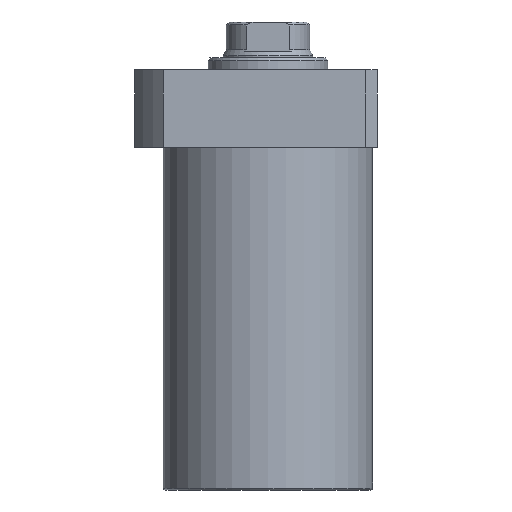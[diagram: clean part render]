
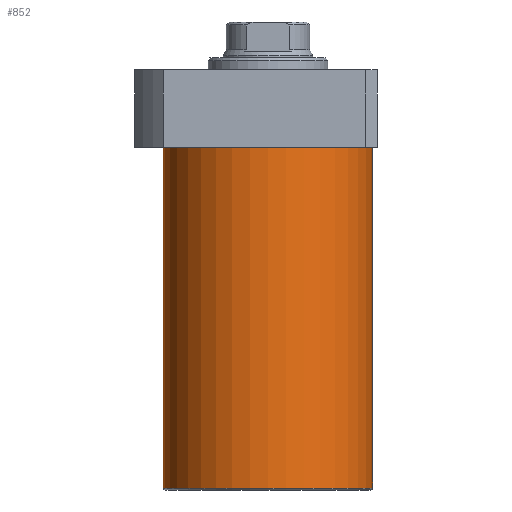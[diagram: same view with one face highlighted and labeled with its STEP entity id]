
A CAD part, front view. The second image highlights one B-rep face of the part: STEP entity #852.
In plain terms, the highlighted cylindrical face has radius 52.5 mm (diameter 105 mm), a partial arc.
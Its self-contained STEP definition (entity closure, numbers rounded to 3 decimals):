
#103 = DIRECTION ( 'NONE',  ( 1., 0., 0. ) ) ;
#120 = DIRECTION ( 'NONE',  ( 0., 0., 1. ) ) ;
#146 = EDGE_LOOP ( 'NONE', ( #1537, #802, #403, #1473 ) ) ;
#225 = AXIS2_PLACEMENT_3D ( 'NONE', #1780, #120, #103 ) ;
#255 = EDGE_CURVE ( 'NONE', #1125, #357, #1659, .T. ) ;
#266 = FACE_OUTER_BOUND ( 'NONE', #146, .T. ) ;
#331 = DIRECTION ( 'NONE',  ( 0., 0., 1. ) ) ;
#356 = DIRECTION ( 'NONE',  ( 0., 0., -1. ) ) ;
#357 = VERTEX_POINT ( 'NONE', #1257 ) ;
#395 = CARTESIAN_POINT ( 'NONE',  ( 52.5, 0., -191.5 ) ) ;
#403 = ORIENTED_EDGE ( 'NONE', *, *, #1097, .T. ) ;
#664 = DIRECTION ( 'NONE',  ( 1., 0., 0. ) ) ;
#770 = AXIS2_PLACEMENT_3D ( 'NONE', #1526, #774, #1685 ) ;
#774 = DIRECTION ( 'NONE',  ( 0., 0., 1. ) ) ;
#802 = ORIENTED_EDGE ( 'NONE', *, *, #255, .T. ) ;
#832 = CARTESIAN_POINT ( 'NONE',  ( -52.5, 0., -19.5 ) ) ;
#852 = ADVANCED_FACE ( 'NONE', ( #266 ), #1011, .T. ) ;
#894 = CIRCLE ( 'NONE', #899, 52.5 ) ;
#899 = AXIS2_PLACEMENT_3D ( 'NONE', #1541, #356, #664 ) ;
#960 = EDGE_CURVE ( 'NONE', #1125, #1146, #1414, .T. ) ;
#997 = CARTESIAN_POINT ( 'NONE',  ( 52.5, 0., -19.5 ) ) ;
#998 = CARTESIAN_POINT ( 'NONE',  ( -52.5, 0., -190.5 ) ) ;
#1011 = CYLINDRICAL_SURFACE ( 'NONE', #225, 52.5 ) ;
#1052 = EDGE_CURVE ( 'NONE', #1436, #1146, #894, .T. ) ;
#1097 = EDGE_CURVE ( 'NONE', #357, #1436, #1924, .T. ) ;
#1125 = VERTEX_POINT ( 'NONE', #998 ) ;
#1146 = VERTEX_POINT ( 'NONE', #832 ) ;
#1257 = CARTESIAN_POINT ( 'NONE',  ( 52.5, 0., -190.5 ) ) ;
#1261 = VECTOR ( 'NONE', #1283, 1000. ) ;
#1283 = DIRECTION ( 'NONE',  ( 0., 0., 1. ) ) ;
#1414 = LINE ( 'NONE', #1528, #1848 ) ;
#1436 = VERTEX_POINT ( 'NONE', #997 ) ;
#1473 = ORIENTED_EDGE ( 'NONE', *, *, #1052, .T. ) ;
#1526 = CARTESIAN_POINT ( 'NONE',  ( 0., 0., -190.5 ) ) ;
#1528 = CARTESIAN_POINT ( 'NONE',  ( -52.5, 0., -191.5 ) ) ;
#1537 = ORIENTED_EDGE ( 'NONE', *, *, #960, .F. ) ;
#1541 = CARTESIAN_POINT ( 'NONE',  ( 0., 0., -19.5 ) ) ;
#1659 = CIRCLE ( 'NONE', #770, 52.5 ) ;
#1685 = DIRECTION ( 'NONE',  ( -1., 0., 0. ) ) ;
#1780 = CARTESIAN_POINT ( 'NONE',  ( 0., 0., -191.5 ) ) ;
#1848 = VECTOR ( 'NONE', #331, 1000. ) ;
#1924 = LINE ( 'NONE', #395, #1261 ) ;
